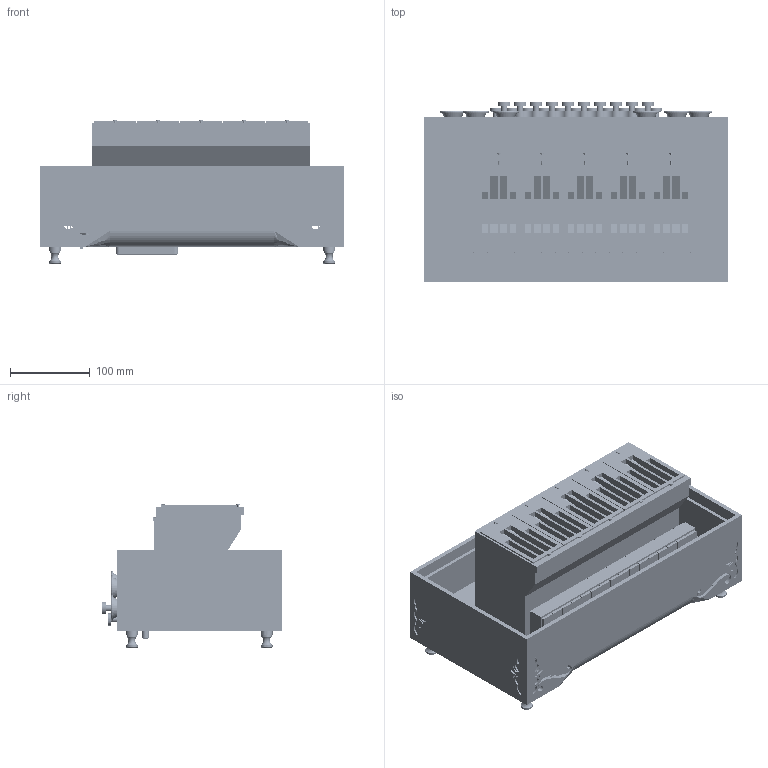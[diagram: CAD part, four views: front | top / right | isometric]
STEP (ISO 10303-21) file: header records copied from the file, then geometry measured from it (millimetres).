
FILE_DESCRIPTION(('Open CASCADE Model'),'2;1');
FILE_NAME('Open CASCADE Shape Model','2026-11-26T07:21:56',('Author'),( 'Open CASCADE'),'Open CASCADE STEP processor 7.9','Open CASCADE 7.9' ,'Unknown');
FILE_SCHEMA(('AUTOMOTIVE_DESIGN { 1 0 10303 214 1 1 1 1 }'));
Length unit declared in the file: millimetre
Products named in the file (500): Bassteil_Eduard_Winkelbass; Front; Rueckteil; Seitenteil_links; Seitenteil_rechts; Bassboden; Horn_1; Horn_2; Horn_3; Horn_4; Horn_5; Horn_6; Frontblende; Knopf_R1_91; Knopfzylinder_R1_91; Filzeinlage_R1_91; Knopf_R1_111; Knopfzylinder_R1_111; Filzeinlage_R1_111; Knopf_R1_131; Knopfzylinder_R1_131; Filzeinlage_R1_131; Knopf_R1_151; Knopfzylinder_R1_151; Filzeinlage_R1_151; Knopf_R1_171; Knopfzylinder_R1_171; Filzeinlage_R1_171; Knopf_R1_191; Knopfzylinder_R1_191; Filzeinlage_R1_191; Knopf_R1_211; Knopfzylinder_R1_211; Filzeinlage_R1_211; Knopf_R1_231; Knopfzylinder_R1_231; Filzeinlage_R1_231; Knopf_R1_251; Knopfzylinder_R1_251; Filzeinlage_R1_251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
Assembly tree (499 placements, depth 2):
  Bassteil_Eduard_Winkelbass
    Front
    Rueckteil
    Seitenteil_links
    Seitenteil_rechts
    Bassboden
    Horn_1
    Horn_2
    Horn_3
    Horn_4
    Horn_5
    Horn_6
    Frontblende
    Knopf_R1_91
    Knopfzylinder_R1_91
    Filzeinlage_R1_91
    Knopf_R1_111
    Knopfzylinder_R1_111
    Filzeinlage_R1_111
    Knopf_R1_131
    Knopfzylinder_R1_131
    Filzeinlage_R1_131
    Knopf_R1_151
    Knopfzylinder_R1_151
    Filzeinlage_R1_151
    Knopf_R1_171
    Knopfzylinder_R1_171
    Filzeinlage_R1_171
    Knopf_R1_191
    Knopfzylinder_R1_191
    Filzeinlage_R1_191
    Knopf_R1_211
    Knopfzylinder_R1_211
    Filzeinlage_R1_211
    Knopf_R1_231
    Knopfzylinder_R1_231
    Filzeinlage_R1_231
    Knopf_R1_251
    Knopfzylinder_R1_251
    Filzeinlage_R1_251
    Knopf_R1_271
    Knopfzylinder_R1_271
    Filzeinlage_R1_271
    Knopf_R1_291
    Knopfzylinder_R1_291
    Filzeinlage_R1_291
    Knopf_R2_101
    Knopfzylinder_R2_101
    Filzeinlage_R2_101
    Knopf_R2_121
    Knopfzylinder_R2_121
    Filzeinlage_R2_121
    Knopf_R2_141
    Knopfzylinder_R2_141
    Filzeinlage_R2_141
    Knopf_R2_161
    Knopfzylinder_R2_161
    Filzeinlage_R2_161
    Knopf_R2_181
    Knopfzylinder_R2_181
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Bounding box: 382 x 225 x 181.81 mm (x, y, z)
Volume: 2680587 mm3; surface area: 1756073.5 mm2
Topology: 499 solids, 499 shells, 16877 faces, 46808 edges, 30776 vertices
Faces by surface type: plane 14864, cylinder 1266, cone 378, sphere 233, revolution 108, bspline 26, torus 2
Full cylindrical faces by diameter (mm): 0.5 x122, 1 x1, 1.08 x1, 1.1 x27, 1.4 x56, 1.5 x100, 1.6 x2, 1.8 x31, 2 x1, 2.05 x3, 2.4 x200, 2.5 x79, 2.6 x4, 2.7 x2, 3 x13, 3.1 x1, 3.5 x2, 4 x109, 5 x14, 6 x1, 7.5 x42, 8 x8, 9.5 x8, 10 x56, 11 x22, 12 x32, 12.5 x4, 13 x4, 13.5 x8, 14 x4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
Entity records: 1223226 total; most frequent: CARTESIAN_POINT 272462, DIRECTION 173904, LINE 129381, VECTOR 129381, ORIENTED_EDGE 93014, PCURVE 93014, DEFINITIONAL_REPRESENTATION 93014, EDGE_CURVE 46507
